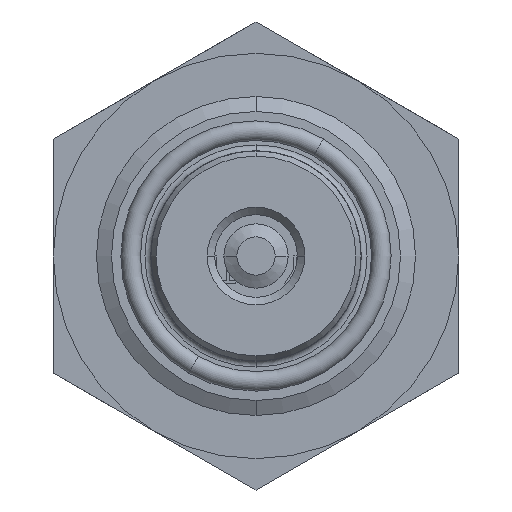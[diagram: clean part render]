
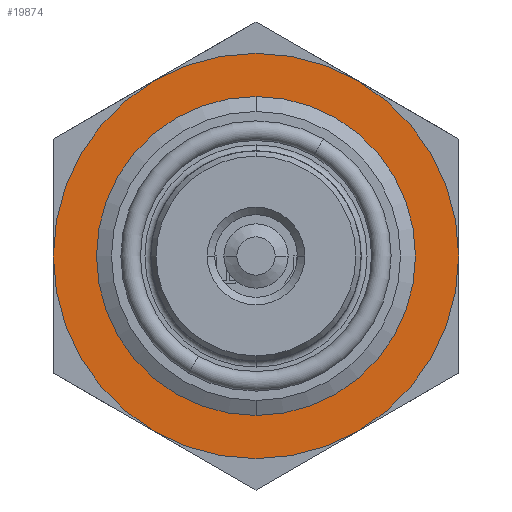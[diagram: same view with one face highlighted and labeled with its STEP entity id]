
A CAD part, front view. The second image highlights one B-rep face of the part: STEP entity #19874.
In plain terms, the highlighted planar face has unit normal (0, -1, 0).
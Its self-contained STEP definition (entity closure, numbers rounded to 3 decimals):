
#1098 = DIRECTION ( 'NONE',  ( 0., 0., 1. ) ) ;
#2144 = CARTESIAN_POINT ( 'NONE',  ( 0., -25., 13.5 ) ) ;
#2278 = AXIS2_PLACEMENT_3D ( 'NONE', #5676, #18369, #7498 ) ;
#2677 = VERTEX_POINT ( 'NONE', #7418 ) ;
#3007 = CIRCLE ( 'NONE', #19018, 13.5 ) ;
#3097 = VERTEX_POINT ( 'NONE', #2144 ) ;
#4121 = CIRCLE ( 'NONE', #21550, 10. ) ;
#4125 = DIRECTION ( 'NONE',  ( 0., -1., 0. ) ) ;
#4338 = DIRECTION ( 'NONE',  ( 0., -1., 0. ) ) ;
#5445 = VERTEX_POINT ( 'NONE', #6754 ) ;
#5603 = ORIENTED_EDGE ( 'NONE', *, *, #11306, .F. ) ;
#5676 = CARTESIAN_POINT ( 'NONE',  ( 0., -25., 0. ) ) ;
#6754 = CARTESIAN_POINT ( 'NONE',  ( 0., -25., 10. ) ) ;
#7418 = CARTESIAN_POINT ( 'NONE',  ( 0., -25., -10. ) ) ;
#7498 = DIRECTION ( 'NONE',  ( 0., 0., -1. ) ) ;
#7910 = EDGE_CURVE ( 'NONE', #18151, #3097, #3007, .T. ) ;
#8211 = EDGE_LOOP ( 'NONE', ( #19880, #5603 ) ) ;
#8385 = DIRECTION ( 'NONE',  ( 0., -1., 0. ) ) ;
#11306 = EDGE_CURVE ( 'NONE', #2677, #5445, #4121, .T. ) ;
#12026 = DIRECTION ( 'NONE',  ( 0., 1., 0. ) ) ;
#12330 = CIRCLE ( 'NONE', #19205, 10. ) ;
#12651 = EDGE_CURVE ( 'NONE', #5445, #2677, #12330, .T. ) ;
#13822 = FACE_OUTER_BOUND ( 'NONE', #23289, .T. ) ;
#15004 = CARTESIAN_POINT ( 'NONE',  ( 0., -25., 0. ) ) ;
#15196 = ORIENTED_EDGE ( 'NONE', *, *, #7910, .T. ) ;
#15231 = CARTESIAN_POINT ( 'NONE',  ( 0., -25., 0. ) ) ;
#15621 = PLANE ( 'NONE',  #19454 ) ;
#16812 = DIRECTION ( 'NONE',  ( 0., 0., -1. ) ) ;
#17037 = DIRECTION ( 'NONE',  ( 0., 0., -1. ) ) ;
#17151 = EDGE_CURVE ( 'NONE', #3097, #18151, #17770, .T. ) ;
#17770 = CIRCLE ( 'NONE', #2278, 13.5 ) ;
#18151 = VERTEX_POINT ( 'NONE', #21096 ) ;
#18369 = DIRECTION ( 'NONE',  ( 0., -1., 0. ) ) ;
#19018 = AXIS2_PLACEMENT_3D ( 'NONE', #15231, #4338, #17037 ) ;
#19205 = AXIS2_PLACEMENT_3D ( 'NONE', #19230, #8385, #21015 ) ;
#19230 = CARTESIAN_POINT ( 'NONE',  ( 0., -25., 0. ) ) ;
#19454 = AXIS2_PLACEMENT_3D ( 'NONE', #22788, #12026, #1098 ) ;
#19874 = ADVANCED_FACE ( 'NONE', ( #23352, #13822 ), #15621, .F. ) ;
#19880 = ORIENTED_EDGE ( 'NONE', *, *, #12651, .F. ) ;
#20216 = ORIENTED_EDGE ( 'NONE', *, *, #17151, .T. ) ;
#21015 = DIRECTION ( 'NONE',  ( 0., 0., -1. ) ) ;
#21096 = CARTESIAN_POINT ( 'NONE',  ( 0., -25., -13.5 ) ) ;
#21550 = AXIS2_PLACEMENT_3D ( 'NONE', #15004, #4125, #16812 ) ;
#22788 = CARTESIAN_POINT ( 'NONE',  ( 0., -25., -31.843 ) ) ;
#23289 = EDGE_LOOP ( 'NONE', ( #15196, #20216 ) ) ;
#23352 = FACE_BOUND ( 'NONE', #8211, .T. ) ;
